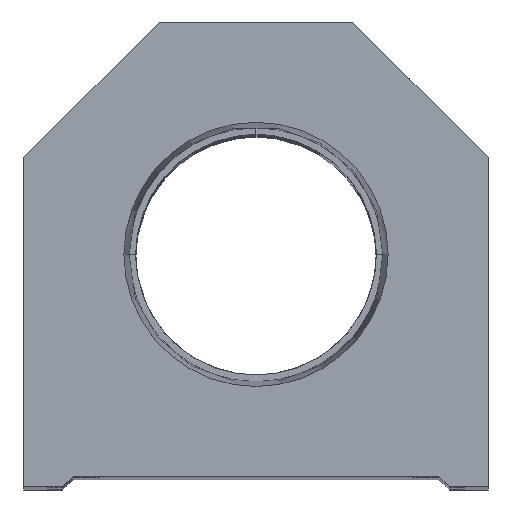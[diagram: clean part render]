
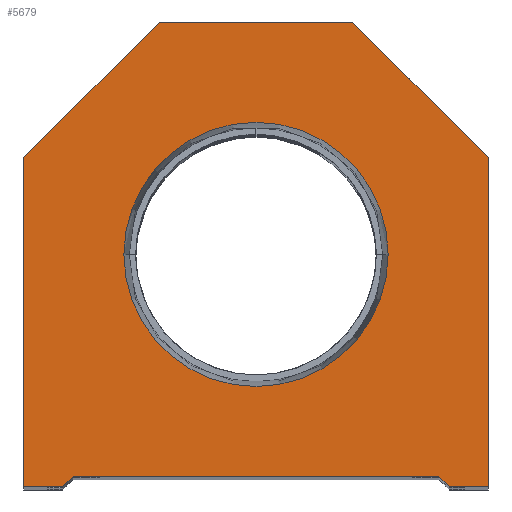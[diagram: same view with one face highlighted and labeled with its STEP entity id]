
A CAD part, top view. The second image highlights one B-rep face of the part: STEP entity #5679.
In plain terms, the highlighted planar face has unit normal (0, 0, 1).
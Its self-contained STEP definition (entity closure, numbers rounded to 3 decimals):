
#86 = EDGE_CURVE ( 'NONE', #15016, #14718, #13874, .T. ) ;
#186 = CARTESIAN_POINT ( 'NONE',  ( 12.647, 22.25, 0. ) ) ;
#230 = CARTESIAN_POINT ( 'NONE',  ( 18.5, 0., 0. ) ) ;
#402 = CARTESIAN_POINT ( 'NONE',  ( -9.25, 44.5, 0. ) ) ;
#418 = DIRECTION ( 'NONE',  ( 0.707, 0.707, 0. ) ) ;
#747 = CARTESIAN_POINT ( 'NONE',  ( 0., 0., 0. ) ) ;
#768 = DIRECTION ( 'NONE',  ( 0., -1., 0. ) ) ;
#821 = CARTESIAN_POINT ( 'NONE',  ( -17.5, 0., 0. ) ) ;
#864 = DIRECTION ( 'NONE',  ( 1., 0., 0. ) ) ;
#900 = PLANE ( 'NONE',  #11512 ) ;
#1088 = CARTESIAN_POINT ( 'NONE',  ( -17.5, 1., 0. ) ) ;
#1096 = LINE ( 'NONE', #15381, #1830 ) ;
#1152 = VERTEX_POINT ( 'NONE', #230 ) ;
#1153 = CARTESIAN_POINT ( 'NONE',  ( 9.25, 44.5, 0. ) ) ;
#1189 = ORIENTED_EDGE ( 'NONE', *, *, #4191, .T. ) ;
#1347 = VECTOR ( 'NONE', #3203, 1000. ) ;
#1459 = VECTOR ( 'NONE', #3535, 1000. ) ;
#1605 = CARTESIAN_POINT ( 'NONE',  ( -17.5, 1., 0. ) ) ;
#1823 = CARTESIAN_POINT ( 'NONE',  ( 22.25, 31.5, 0. ) ) ;
#1830 = VECTOR ( 'NONE', #12945, 1000. ) ;
#1893 = VERTEX_POINT ( 'NONE', #8803 ) ;
#2082 = EDGE_CURVE ( 'NONE', #1152, #14791, #4566, .T. ) ;
#2394 = EDGE_CURVE ( 'NONE', #3530, #13241, #6880, .T. ) ;
#3203 = DIRECTION ( 'NONE',  ( -0.707, 0.707, 0. ) ) ;
#3530 = VERTEX_POINT ( 'NONE', #1605 ) ;
#3535 = DIRECTION ( 'NONE',  ( 0., 1., 0. ) ) ;
#4191 = EDGE_CURVE ( 'NONE', #14791, #14312, #12246, .T. ) ;
#4246 = ORIENTED_EDGE ( 'NONE', *, *, #4935, .T. ) ;
#4378 = DIRECTION ( 'NONE',  ( 1., 0., 0. ) ) ;
#4566 = LINE ( 'NONE', #9354, #5219 ) ;
#4746 = VECTOR ( 'NONE', #418, 1000. ) ;
#4867 = ORIENTED_EDGE ( 'NONE', *, *, #86, .T. ) ;
#4935 = EDGE_CURVE ( 'NONE', #13241, #1152, #11952, .T. ) ;
#5147 = CIRCLE ( 'NONE', #7149, 12.647 ) ;
#5219 = VECTOR ( 'NONE', #14150, 1000. ) ;
#5362 = ORIENTED_EDGE ( 'NONE', *, *, #7673, .F. ) ;
#5383 = ORIENTED_EDGE ( 'NONE', *, *, #14089, .T. ) ;
#5405 = LINE ( 'NONE', #9015, #1347 ) ;
#5517 = DIRECTION ( 'NONE',  ( 0., 0., 1. ) ) ;
#5662 = DIRECTION ( 'NONE',  ( 1., 0., 0. ) ) ;
#5679 = ADVANCED_FACE ( 'NONE', ( #11578, #11417 ), #900, .T. ) ;
#5739 = CARTESIAN_POINT ( 'NONE',  ( 9.25, 9.25, 0. ) ) ;
#5813 = CIRCLE ( 'NONE', #14617, 12.647 ) ;
#5924 = CARTESIAN_POINT ( 'NONE',  ( 9.25, 44.5, 0. ) ) ;
#6237 = CARTESIAN_POINT ( 'NONE',  ( 17.5, 1., 0. ) ) ;
#6474 = ORIENTED_EDGE ( 'NONE', *, *, #14440, .F. ) ;
#6585 = CARTESIAN_POINT ( 'NONE',  ( -9.25, 9.25, 0. ) ) ;
#6590 = EDGE_CURVE ( 'NONE', #10360, #3530, #12580, .T. ) ;
#6880 = LINE ( 'NONE', #1088, #9984 ) ;
#7149 = AXIS2_PLACEMENT_3D ( 'NONE', #8167, #9270, #8088 ) ;
#7673 = EDGE_CURVE ( 'NONE', #14556, #1893, #5813, .T. ) ;
#7872 = DIRECTION ( 'NONE',  ( 1., 0., 0. ) ) ;
#7949 = LINE ( 'NONE', #821, #12681 ) ;
#8088 = DIRECTION ( 'NONE',  ( 1., 0., 0. ) ) ;
#8167 = CARTESIAN_POINT ( 'NONE',  ( 0., 22.25, 0. ) ) ;
#8334 = DIRECTION ( 'NONE',  ( 0.707, -0.707, 0. ) ) ;
#8803 = CARTESIAN_POINT ( 'NONE',  ( -12.647, 22.25, 0. ) ) ;
#9015 = CARTESIAN_POINT ( 'NONE',  ( 22.25, 31.5, 0. ) ) ;
#9270 = DIRECTION ( 'NONE',  ( 0., 0., 1. ) ) ;
#9354 = CARTESIAN_POINT ( 'NONE',  ( 17.5, 0., 0. ) ) ;
#9712 = EDGE_LOOP ( 'NONE', ( #5362, #6474 ) ) ;
#9984 = VECTOR ( 'NONE', #4378, 1000. ) ;
#10035 = CARTESIAN_POINT ( 'NONE',  ( 22.25, 0., 0. ) ) ;
#10274 = CARTESIAN_POINT ( 'NONE',  ( 0., 22.25, 0. ) ) ;
#10295 = EDGE_CURVE ( 'NONE', #14312, #13165, #5405, .T. ) ;
#10360 = VERTEX_POINT ( 'NONE', #11774 ) ;
#10406 = EDGE_CURVE ( 'NONE', #13713, #15016, #1096, .T. ) ;
#10495 = CARTESIAN_POINT ( 'NONE',  ( -22.25, 0., 0. ) ) ;
#10718 = DIRECTION ( 'NONE',  ( -1., 0., 0. ) ) ;
#10739 = ORIENTED_EDGE ( 'NONE', *, *, #6590, .T. ) ;
#11027 = LINE ( 'NONE', #1153, #13182 ) ;
#11336 = EDGE_LOOP ( 'NONE', ( #5383, #10739, #13728, #4246, #11619, #1189, #13672, #14029, #12363, #4867 ) ) ;
#11417 = FACE_OUTER_BOUND ( 'NONE', #11336, .T. ) ;
#11489 = CARTESIAN_POINT ( 'NONE',  ( -22.25, 31.5, 0. ) ) ;
#11512 = AXIS2_PLACEMENT_3D ( 'NONE', #747, #5517, #7872 ) ;
#11578 = FACE_BOUND ( 'NONE', #9712, .T. ) ;
#11619 = ORIENTED_EDGE ( 'NONE', *, *, #2082, .T. ) ;
#11691 = DIRECTION ( 'NONE',  ( 0., 0., 1. ) ) ;
#11774 = CARTESIAN_POINT ( 'NONE',  ( -18.5, 0., 0. ) ) ;
#11952 = LINE ( 'NONE', #5739, #12505 ) ;
#12246 = LINE ( 'NONE', #10035, #1459 ) ;
#12363 = ORIENTED_EDGE ( 'NONE', *, *, #10406, .T. ) ;
#12505 = VECTOR ( 'NONE', #8334, 1000. ) ;
#12580 = LINE ( 'NONE', #6585, #4746 ) ;
#12681 = VECTOR ( 'NONE', #5662, 1000. ) ;
#12945 = DIRECTION ( 'NONE',  ( -0.707, -0.707, 0. ) ) ;
#13165 = VERTEX_POINT ( 'NONE', #5924 ) ;
#13182 = VECTOR ( 'NONE', #10718, 1000. ) ;
#13241 = VERTEX_POINT ( 'NONE', #6237 ) ;
#13246 = EDGE_CURVE ( 'NONE', #13165, #13713, #11027, .T. ) ;
#13672 = ORIENTED_EDGE ( 'NONE', *, *, #10295, .T. ) ;
#13713 = VERTEX_POINT ( 'NONE', #402 ) ;
#13728 = ORIENTED_EDGE ( 'NONE', *, *, #2394, .T. ) ;
#13874 = LINE ( 'NONE', #10495, #15464 ) ;
#14029 = ORIENTED_EDGE ( 'NONE', *, *, #13246, .T. ) ;
#14089 = EDGE_CURVE ( 'NONE', #14718, #10360, #7949, .T. ) ;
#14150 = DIRECTION ( 'NONE',  ( 1., 0., 0. ) ) ;
#14312 = VERTEX_POINT ( 'NONE', #1823 ) ;
#14440 = EDGE_CURVE ( 'NONE', #1893, #14556, #5147, .T. ) ;
#14556 = VERTEX_POINT ( 'NONE', #186 ) ;
#14617 = AXIS2_PLACEMENT_3D ( 'NONE', #10274, #11691, #864 ) ;
#14689 = CARTESIAN_POINT ( 'NONE',  ( -22.25, 0., 0. ) ) ;
#14718 = VERTEX_POINT ( 'NONE', #14689 ) ;
#14791 = VERTEX_POINT ( 'NONE', #14999 ) ;
#14999 = CARTESIAN_POINT ( 'NONE',  ( 22.25, 0., 0. ) ) ;
#15016 = VERTEX_POINT ( 'NONE', #11489 ) ;
#15381 = CARTESIAN_POINT ( 'NONE',  ( -22.25, 31.5, 0. ) ) ;
#15464 = VECTOR ( 'NONE', #768, 1000. ) ;
